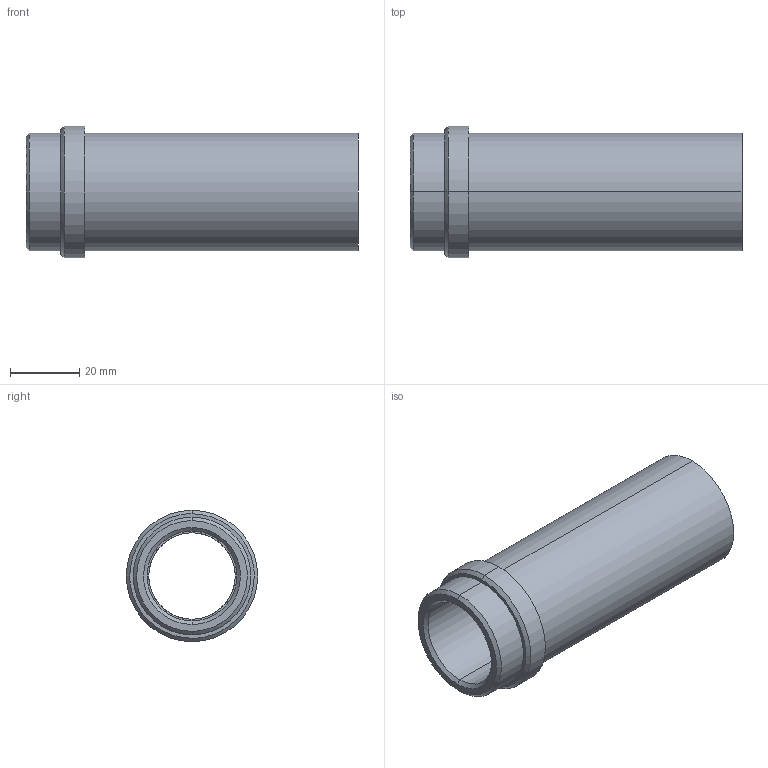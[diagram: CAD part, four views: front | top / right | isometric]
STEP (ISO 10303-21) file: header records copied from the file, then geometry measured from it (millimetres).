
FILE_DESCRIPTION(('CATIA V5 STEP Exchange'),'2;1');
FILE_NAME('C:\Users\Utente\Desktop\IO LAVORO\3D X SITO CF\X SITO\PLASTICA\358\358-25x96.stp','2021-04-09T13:18:42+00:00',('none'),('none'),'CATIA Version 5 Release 20 GA (IN-10)','CATIA V5 STEP AP203','none');
FILE_SCHEMA(('CONFIG_CONTROL_DESIGN'));
Length unit declared in the file: millimetre
Products named in the file (1): 358-25X96
Bounding box: 96 x 38 x 38 mm (x, y, z)
Volume: 39554.5 mm3; surface area: 19065.6 mm2
Topology: 1 solids, 1 shells, 23 faces, 74 edges, 56 vertices
Faces by surface type: cylinder 10, cone 6, plane 5, torus 2
Entity records: 1066 total; most frequent: CARTESIAN_POINT 378, ORIENTED_EDGE 148, DIRECTION 104, EDGE_CURVE 74, AXIS2_PLACEMENT_3D 66, VERTEX_POINT 56, CIRCLE 42, EDGE_LOOP 28
